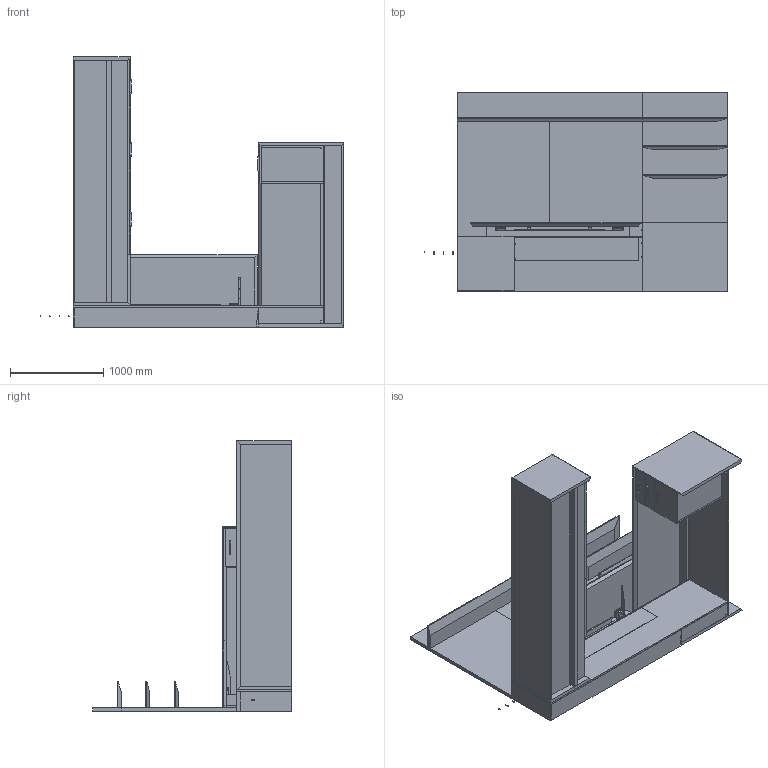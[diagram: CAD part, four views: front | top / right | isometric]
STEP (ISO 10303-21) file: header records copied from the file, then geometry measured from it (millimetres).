
FILE_DESCRIPTION(/* description */ ('','CAx-IF Rec.Pracs.---Representation and Presentation of Product Manufacturing Information (PMI)---4.0---2014-10-13'),/* implementation_level */ '2;1');
FILE_NAME(/* name */ 'AERO^PO3.stp',/* time_stamp */ '2024-12-05T16:24:26-05:00',/* author */ ('mbowman'),/* organization */ (''),/* preprocessor_version */ 'ST-DEVELOPER v19.2',/* originating_system */ 'Autodesk Inventor 2023',/* authorisation */ '');
FILE_SCHEMA (('AP242_MANAGED_MODEL_BASED_3D_ENGINEERING_MIM_LF { 1 0 10303 442 1 1 4 }'));
Products named in the file (29): AERO^OFFICE 4_U SHAPE FIXED DESK RT-SOLIDS ASSEMBLY; AERO^OFFICE 4_36x78 DESK PED RT HAT BRIDGE-PARTS SOLID; AERO^OFFICE 4_112 CREDENZA LEFT-PARTS SOLID; AERO^OFFICE 4_112 CREDENZA LEFT-PARTS SOLID_1; CCN^AERO_DOOR W PRINTER SHELF; LEFT TRACK-SALICE A7555_21^HAFELE; RIGHT TRACK-SALICE A7555_21^HAFELE; CCN^AERO_DOOR W PRINTER SHELF_1; AERO^OFFICE 4_114 CREDENZA LEFT-PRINTER FRONT; H-Q-PULLNEW; Brother HL-L5000D; Brother HL-L5000D_1; 70080620; USB 2.0 Type B Connector Right Angle (Würth 61400416121); 211011-4; AERO^OFFICE 4_114 CREDENZA LEFT-PRINTER SIDE; AERO^OFFICE 4_78 WALL HUNG-LEFT TACK; AERO^OFFICE 4_114 WALL HUNG-SHELF; AERO^OFFICE 4_36 WALL HUNG-SHELF; AERO^OFFICE 4_25x78 HAT BRIDGE-PARTS SOLID; AERO^OFFICE 4_25x78 HAT BRIDGE-PARTS SOLID_1; dl5nc_without_bracket_STEP; dl5nc_without_bracket_STEP_1; DL5NC_OP; STANDART_MOTORHUS1_DL5; AERO^OFFICE 4_25x78 HAT SHROUD-PARTS SOLID; AERO^OFFICE 4_25x78 HAT BRIDGE-WIRE TROUGH; SS LIFT ANGLE_18_LT_OMT_LINAK; SS LIFT ANGLE_18_RT_OMT_LINAK
Assembly tree (37 placements, depth 4):
  AERO^OFFICE 4_U SHAPE FIXED DESK RT-SOLIDS ASSEMBLY
    AERO^OFFICE 4_36x78 DESK PED RT HAT BRIDGE-PARTS SOLID
    H-Q-PULLNEW  x3
    AERO^OFFICE 4_112 CREDENZA LEFT-PARTS SOLID
      AERO^OFFICE 4_112 CREDENZA LEFT-PARTS SOLID_1
      H-Q-PULLNEW  x5
      CCN^AERO_DOOR W PRINTER SHELF
        LEFT TRACK-SALICE A7555_21^HAFELE
        RIGHT TRACK-SALICE A7555_21^HAFELE
        CCN^AERO_DOOR W PRINTER SHELF_1
      AERO^OFFICE 4_114 CREDENZA LEFT-PRINTER FRONT
      Brother HL-L5000D
        Brother HL-L5000D_1
        70080620
        USB 2.0 Type B Connector Right Angle (Würth 61400416121)
        211011-4
      AERO^OFFICE 4_114 CREDENZA LEFT-PRINTER SIDE
    AERO^OFFICE 4_78 WALL HUNG-LEFT TACK
    AERO^OFFICE 4_114 WALL HUNG-SHELF
    AERO^OFFICE 4_36 WALL HUNG-SHELF
    AERO^OFFICE 4_25x78 HAT BRIDGE-PARTS SOLID
    AERO^OFFICE 4_25x78 HAT BRIDGE-PARTS SOLID_1
    dl5nc_without_bracket_STEP
      DL5NC_OP
      STANDART_MOTORHUS1_DL5
    dl5nc_without_bracket_STEP_1
      DL5NC_OP
      STANDART_MOTORHUS1_DL5
    AERO^OFFICE 4_25x78 HAT SHROUD-PARTS SOLID
    AERO^OFFICE 4_25x78 HAT BRIDGE-WIRE TROUGH
    SS LIFT ANGLE_18_LT_OMT_LINAK
    SS LIFT ANGLE_18_RT_OMT_LINAK
Bounding box: 3249.64 x 2127.25 x 2895.6 mm (x, y, z)
Volume: 666947717.7 mm3; surface area: 56317834.8 mm2
Topology: 85 solids, 125 shells, 8605 faces, 21421 edges, 13243 vertices
Faces by surface type: plane 4287, cylinder 2737, torus 722, bspline 603, sphere 156, cone 100
Full cylindrical faces by diameter (mm): 0.762 x26, 0.927 x26, 1.391 x6, 1.8 x3, 3.048 x4, 3.3 x6, 3.5 x2, 3.962 x16, 4 x2, 4.6 x4, 4.826 x10, 5 x26, 5.3 x12, 5.5 x4, 5.537 x2, 6 x2, 6.3 x2, 7.137 x4, 8 x6, 8.202 x40, 31.75 x4
Entity records: 264118 total; most frequent: CARTESIAN_POINT 80371, DIRECTION 36655, ORIENTED_EDGE 36312, EDGE_CURVE 18156, AXIS2_PLACEMENT_3D 12565, LINE 11525, VECTOR 11525, VERTEX_POINT 11281
